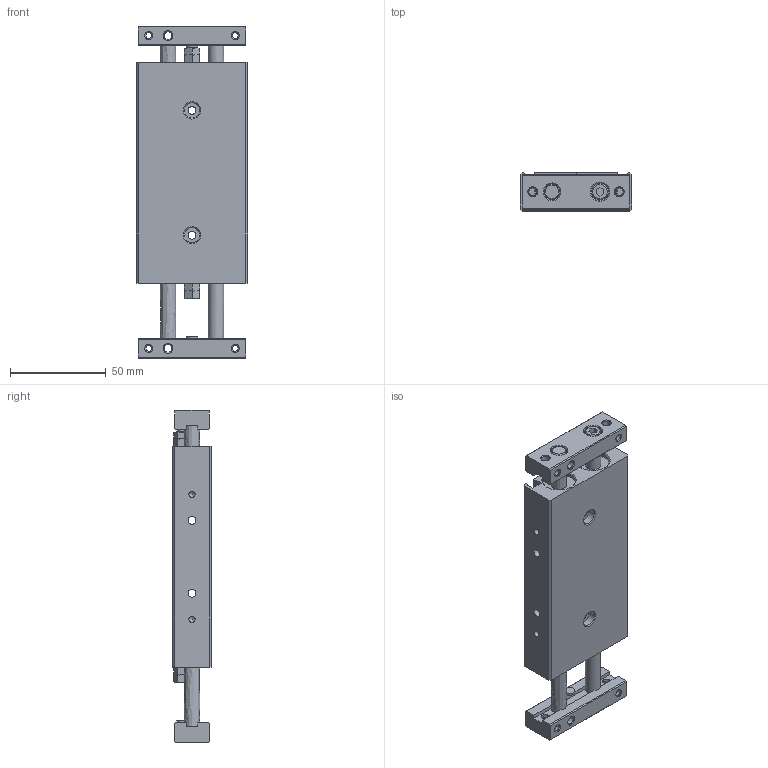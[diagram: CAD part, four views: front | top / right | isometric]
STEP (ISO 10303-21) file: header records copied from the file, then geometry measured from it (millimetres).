
FILE_DESCRIPTION((''),'2;1');
FILE_NAME('I:\3D電子目錄\氣缸\STX\STX\STX16\STX16x20.stp','2007-10-01T17:15:59',('Administrator'),(''),'Autodesk Inventor 11','Autodesk Inventor 11','');
FILE_SCHEMA(('AUTOMOTIVE_DESIGN { 1 0 10303 214 1 1 1 1 }'));
Length unit declared in the file: millimetre
Products named in the file (1): STX16
Bounding box: 58 x 20 x 173 mm (x, y, z)
Volume: 142433.2 mm3; surface area: 37874.2 mm2
Topology: 1 solids, 1 shells, 267 faces, 674 edges, 423 vertices
Faces by surface type: plane 130, cone 76, bspline 36, cylinder 21, torus 4
Full cylindrical faces by diameter (mm): 3.242 x2, 6 x2, 8 x6, 8.2 x2, 8.5 x2, 9 x2, 17 x2, 18 x2
Entity records: 8177 total; most frequent: CARTESIAN_POINT 2631, ORIENTED_EDGE 1088, DIRECTION 1066, EDGE_CURVE 544, EDGE_LOOP 414, AXIS2_PLACEMENT_3D 403, VERTEX_POINT 380, FACE_OUTER_BOUND 266
